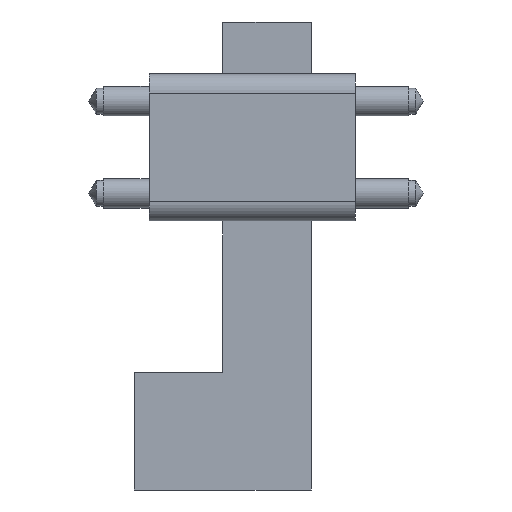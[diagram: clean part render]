
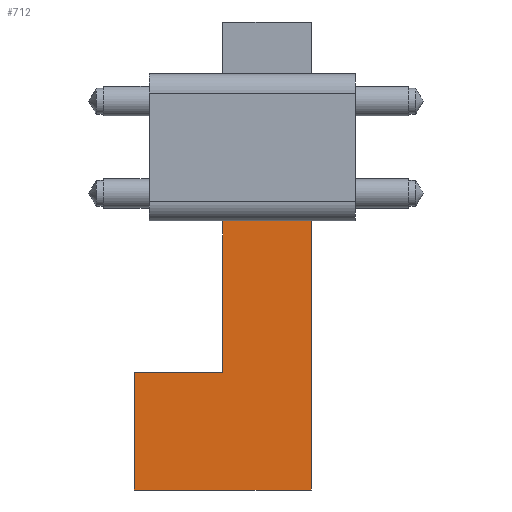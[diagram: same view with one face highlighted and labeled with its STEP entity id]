
A CAD part, left-side view. The second image highlights one B-rep face of the part: STEP entity #712.
In plain terms, the highlighted planar face has unit normal (-1, 0, 0).
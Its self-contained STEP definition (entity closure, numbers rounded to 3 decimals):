
#1 = VERTEX_POINT ( 'NONE', #1382 ) ;
#12 = VECTOR ( 'NONE', #1200, 1000. ) ;
#17 = AXIS2_PLACEMENT_3D ( 'NONE', #584, #110, #796 ) ;
#24 = CARTESIAN_POINT ( 'NONE',  ( -8.501, 6., -46.857 ) ) ;
#110 = DIRECTION ( 'NONE',  ( -1., 0., 0. ) ) ;
#203 = CARTESIAN_POINT ( 'NONE',  ( -8.501, 6., -10.357 ) ) ;
#205 = VECTOR ( 'NONE', #1455, 1000. ) ;
#268 = ORIENTED_EDGE ( 'NONE', *, *, #1261, .F. ) ;
#293 = EDGE_CURVE ( 'NONE', #754, #802, #968, .T. ) ;
#309 = VECTOR ( 'NONE', #1107, 1000. ) ;
#316 = CARTESIAN_POINT ( 'NONE',  ( -8.501, 30., -46.857 ) ) ;
#348 = VECTOR ( 'NONE', #709, 1000. ) ;
#351 = VECTOR ( 'NONE', #485, 1000. ) ;
#442 = ORIENTED_EDGE ( 'NONE', *, *, #825, .T. ) ;
#459 = CARTESIAN_POINT ( 'NONE',  ( -8.501, 18., -10.357 ) ) ;
#485 = DIRECTION ( 'NONE',  ( 0., 0., 1. ) ) ;
#495 = CARTESIAN_POINT ( 'NONE',  ( -8.501, 6., -10.357 ) ) ;
#502 = EDGE_LOOP ( 'NONE', ( #1127, #707, #1095, #268, #442, #808 ) ) ;
#584 = CARTESIAN_POINT ( 'NONE',  ( -8.501, 6., -10.357 ) ) ;
#588 = VECTOR ( 'NONE', #1330, 1000. ) ;
#609 = CARTESIAN_POINT ( 'NONE',  ( -8.501, 6., -46.857 ) ) ;
#650 = VERTEX_POINT ( 'NONE', #24 ) ;
#699 = LINE ( 'NONE', #1430, #12 ) ;
#707 = ORIENTED_EDGE ( 'NONE', *, *, #1123, .T. ) ;
#709 = DIRECTION ( 'NONE',  ( 0., 1., 0. ) ) ;
#712 = ADVANCED_FACE ( 'NONE', ( #833 ), #1459, .T. ) ;
#754 = VERTEX_POINT ( 'NONE', #1158 ) ;
#796 = DIRECTION ( 'NONE',  ( 0., 0., 1. ) ) ;
#797 = LINE ( 'NONE', #203, #588 ) ;
#800 = CARTESIAN_POINT ( 'NONE',  ( -8.501, 18., -10.357 ) ) ;
#802 = VERTEX_POINT ( 'NONE', #1154 ) ;
#808 = ORIENTED_EDGE ( 'NONE', *, *, #1201, .T. ) ;
#825 = EDGE_CURVE ( 'NONE', #650, #1390, #878, .T. ) ;
#833 = FACE_OUTER_BOUND ( 'NONE', #502, .T. ) ;
#878 = LINE ( 'NONE', #495, #351 ) ;
#963 = LINE ( 'NONE', #800, #205 ) ;
#968 = LINE ( 'NONE', #316, #309 ) ;
#1095 = ORIENTED_EDGE ( 'NONE', *, *, #293, .T. ) ;
#1107 = DIRECTION ( 'NONE',  ( 0., 0., -1. ) ) ;
#1123 = EDGE_CURVE ( 'NONE', #1, #754, #699, .T. ) ;
#1127 = ORIENTED_EDGE ( 'NONE', *, *, #1389, .F. ) ;
#1154 = CARTESIAN_POINT ( 'NONE',  ( -8.501, 30., -46.857 ) ) ;
#1158 = CARTESIAN_POINT ( 'NONE',  ( -8.501, 30., -30.857 ) ) ;
#1200 = DIRECTION ( 'NONE',  ( 0., 1., 0. ) ) ;
#1201 = EDGE_CURVE ( 'NONE', #1390, #1306, #797, .T. ) ;
#1261 = EDGE_CURVE ( 'NONE', #650, #802, #1451, .T. ) ;
#1306 = VERTEX_POINT ( 'NONE', #459 ) ;
#1330 = DIRECTION ( 'NONE',  ( 0., 1., 0. ) ) ;
#1346 = CARTESIAN_POINT ( 'NONE',  ( -8.501, 6., -10.357 ) ) ;
#1382 = CARTESIAN_POINT ( 'NONE',  ( -8.501, 18., -30.857 ) ) ;
#1389 = EDGE_CURVE ( 'NONE', #1, #1306, #963, .T. ) ;
#1390 = VERTEX_POINT ( 'NONE', #1346 ) ;
#1430 = CARTESIAN_POINT ( 'NONE',  ( -8.501, 18., -30.857 ) ) ;
#1451 = LINE ( 'NONE', #609, #348 ) ;
#1455 = DIRECTION ( 'NONE',  ( 0., 0., 1. ) ) ;
#1459 = PLANE ( 'NONE',  #17 ) ;
